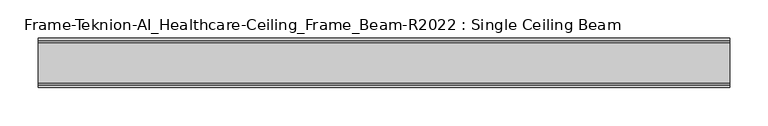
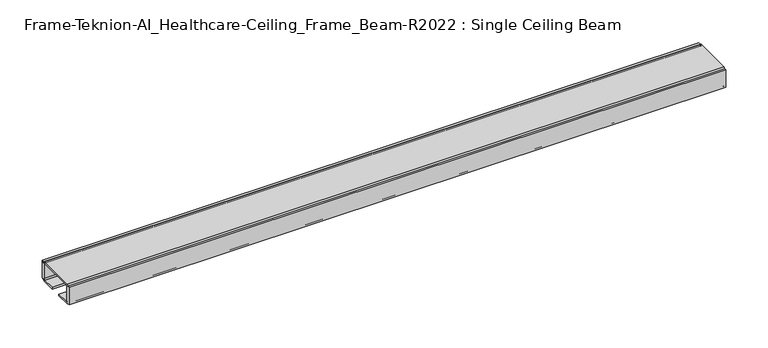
"""IFC4 building model written with IfcOpenShell, lengths in millimetres: furniture geometry, Frame-Teknion-AI_Healthcare-Ceiling_Frame_Beam-R2022 : Single Ceiling Beam."""

from ifc_helpers import new_model, si_unit, point, frame, frame_2d, origin, place, context, project, spatial, polyline, circle_curve, trimmed, segment, composite_curve, outline, extrude, source, transform, mapped, element, save


def frame_teknion_ai_healthcare_ceiling_frame_beam_r2022_single_e26ae7ba(model_context):
    return source(origin(), model_context, "Body", "SweptSolid", [
        extrude(outline(composite_curve([segment(polyline([(-32.174996, 1573.5046), (-32.174996, 1598.9045998), (-28.999999, 1598.9045998), (-28.999999, 1597.787)]), True, "CONTINUOUS"), segment(trimmed(circle_curve(frame_2d((-26.5869991, 1597.787)), 2.413), [point((-28.999999, 1597.787))], [point((-26.5869991, 1600.2))], False, "CARTESIAN"), True, "CONTINUOUS"), segment(polyline([(-26.5869991, 1600.2), (26.5869991, 1600.2)]), True, "CONTINUOUS"), segment(trimmed(circle_curve(frame_2d((26.5869991, 1597.787)), 2.413), [point((26.5869991, 1600.2))], [point((28.999999, 1597.787))], False, "CARTESIAN"), True, "CONTINUOUS"), segment(polyline([(28.999999, 1597.787), (28.999999, 1598.9045998), (32.174996, 1598.9045998), (32.174996, 1573.5046), (28.999999, 1573.5046), (28.999999, 1574.6129989)]), True, "CONTINUOUS"), segment(trimmed(circle_curve(frame_2d((26.5869991, 1574.6129989)), 2.413), [point((28.999999, 1574.6129989))], [point((26.5869991, 1572.199999))], False, "CARTESIAN"), True, "CONTINUOUS"), segment(polyline([(26.5869991, 1572.199999), (7.9374947, 1572.199999), (7.9374947, 1574.4859991), (25.4440002, 1574.4859991)]), True, "CONTINUOUS"), segment(trimmed(circle_curve(frame_2d((25.4440002, 1576.0099999)), 1.5240008), [point((25.4440002, 1574.4859991))], [point((26.968001, 1576.0099999))], True, "CARTESIAN"), True, "CONTINUOUS"), segment(polyline([(26.968001, 1576.0099999), (26.968001, 1597.1520009)]), True, "CONTINUOUS"), segment(trimmed(circle_curve(frame_2d((25.9520019, 1597.1520009)), 1.015999), [point((26.968001, 1597.1520009))], [point((25.9520019, 1598.168))], True, "CARTESIAN"), True, "CONTINUOUS"), segment(polyline([(25.9520019, 1598.168), (-25.9520019, 1598.168)]), True, "CONTINUOUS"), segment(trimmed(circle_curve(frame_2d((-25.9520019, 1597.1520009)), 1.015999), [point((-25.9520019, 1598.168))], [point((-26.968001, 1597.1520009))], True, "CARTESIAN"), True, "CONTINUOUS"), segment(polyline([(-26.968001, 1597.1520009), (-26.968001, 1576.0099999)]), True, "CONTINUOUS"), segment(trimmed(circle_curve(frame_2d((-25.4440002, 1576.0099999)), 1.5240008), [point((-26.968001, 1576.0099999))], [point((-25.4440002, 1574.4859991))], True, "CARTESIAN"), True, "CONTINUOUS"), segment(polyline([(-25.4440002, 1574.4859991), (-7.9374947, 1574.4859991), (-7.9374947, 1572.199999), (-26.5869991, 1572.199999)]), True, "CONTINUOUS"), segment(trimmed(circle_curve(frame_2d((-26.5869991, 1574.6129989)), 2.413), [point((-26.5869991, 1572.199999))], [point((-28.999999, 1574.6129989))], False, "CARTESIAN"), True, "CONTINUOUS"), segment(polyline([(-28.999999, 1574.6129989), (-28.999999, 1573.5046), (-32.174996, 1573.5046)]), True, "CONTINUOUS")], self_intersect=False)), frame((-450.5079114, 0.0, 0.0), z_axis=(1.0, 0.0, 0.0), x_axis=(0.0, 1.0, 0.0)), (0.0, 0.0, 1.0), 901.0158229),
    ])


if __name__ == "__main__":
    model = new_model("IFC4")
    model_context = context("Model", 3, world=origin())
    ifc_project = project(units=[si_unit("LENGTHUNIT", "METRE", prefix="MILLI")], contexts=[model_context])
    site = spatial("IfcSite", under=ifc_project)
    building = spatial("IfcBuilding", under=site)
    placement = place(None, origin())
    frame_teknion_ai_healthcare_ceiling_frame_beam_r2022_single_shape = frame_teknion_ai_healthcare_ceiling_frame_beam_r2022_single_e26ae7ba(model_context)
    element("IfcFurniture", 1, ObjectType="Frame-Teknion-AI_Healthcare-Ceiling_Frame_Beam-R2022 : Single Ceiling Beam", at=placement, inside=building, context=model_context, shape_type="MappedRepresentation", body=[
        mapped(frame_teknion_ai_healthcare_ceiling_frame_beam_r2022_single_shape, transform((0.0, 0.0, 0.0), x_axis=(1.0, 0.0, 0.0), y_axis=(0.0, 1.0, 0.0), z_axis=(0.0, 0.0, 1.0))),
    ])
    save(model, "model.ifc")
